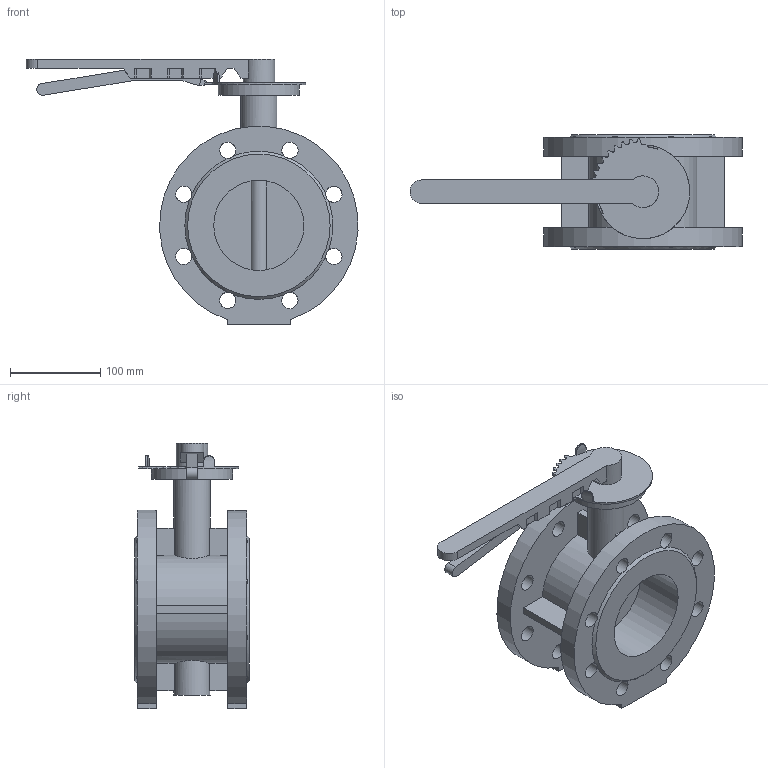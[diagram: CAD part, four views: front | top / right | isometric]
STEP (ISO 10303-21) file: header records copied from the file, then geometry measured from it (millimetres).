
FILE_DESCRIPTION(('STEP AP203'), '1');
FILE_NAME('Çàòâîð 021F.Y DN100 +ðóêîÿòêà', '', ('UNSPECIFIED'), ('UNSPECIFIED'), 'ASCON STEP Converter 1.6', 'ASCON Math Kernel', '');
FILE_SCHEMA(('CONFIG_CONTROL_DESIGN'));
Length unit declared in the file: millimetre
Bounding box: 367.85 x 127 x 294 mm (x, y, z)
Volume: 2061820.6 mm3; surface area: 315917.6 mm2
Topology: 1 solids, 1 shells, 189 faces, 571 edges, 378 vertices
Faces by surface type: plane 121, cylinder 66, cone 2
Full cylindrical faces by diameter (mm): 10 x4, 18 x16, 35 x1, 40 x2, 90 x1, 100 x2
Entity records: 10063 total; most frequent: CARTESIAN_POINT 3358, ORIENTED_EDGE 1086, DIRECTION 1049, EDGE_CURVE 543, VERTEX_POINT 378, AXIS2_PLACEMENT_3D 358, LINE 333, VECTOR 333
